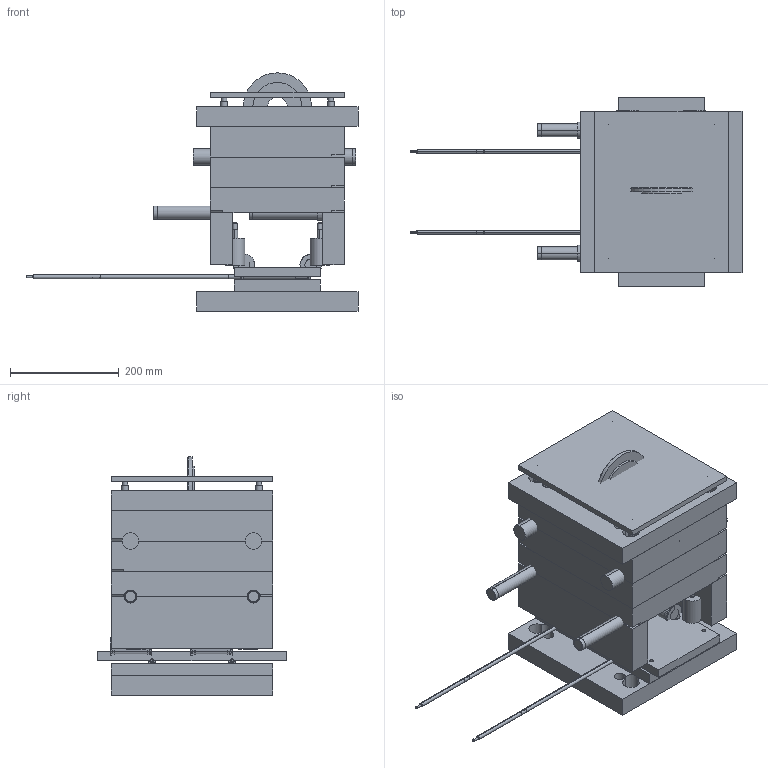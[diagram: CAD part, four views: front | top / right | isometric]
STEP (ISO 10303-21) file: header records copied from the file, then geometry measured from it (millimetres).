
FILE_DESCRIPTION(('Open CASCADE Model'),'2;1');
FILE_NAME('Open CASCADE Shape Model','2026-07-10T05:26:46',('Author'),( 'Open CASCADE'),'Open CASCADE STEP processor 7.8','Open CASCADE 7.8' ,'Unknown');
FILE_SCHEMA(('AUTOMOTIVE_DESIGN { 1 0 10303 214 1 1 1 1 }'));
Length unit declared in the file: millimetre
Products named in the file (70): mold_builder_assembly; Fixed_Half; cavity_plate; clamp_fixed; guide_pin_0; guide_pin_1; guide_pin_2; guide_pin_3; guide_bushing_0; guide_bushing_1; guide_bushing_2; guide_bushing_3; screw_top_0; screw_top_1; screw_top_2; screw_top_3; dowel_pin_0; dowel_pin_1; insulation_plate; sprue_bushing; locating_ring; gate_0; slide_1_K2528; Moving_Half; clamp_moving; support_plate; core_plate; spacer_block; support_pillar_0; support_pillar_1; support_pillar_2; support_pillar_3; screw_bot_0; screw_bot_1; screw_bot_2; screw_bot_3; cooling_channel_0; cooling_channel_1; cooling_channel_2; cooling_channel_3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
Assembly tree (69 placements, depth 3):
  mold_builder_assembly
    Fixed_Half
      cavity_plate
      clamp_fixed
      guide_pin_0
      guide_pin_1
      guide_pin_2
      guide_pin_3
      guide_bushing_0
      guide_bushing_1
      guide_bushing_2
      guide_bushing_3
      screw_top_0
      screw_top_1
      screw_top_2
      screw_top_3
      dowel_pin_0
      dowel_pin_1
      insulation_plate
      sprue_bushing
      locating_ring
      gate_0
      slide_1_K2528
    Moving_Half
      clamp_moving
      support_plate
      core_plate
      spacer_block
      support_pillar_0
      support_pillar_1
      support_pillar_2
      support_pillar_3
      screw_bot_0
      screw_bot_1
      screw_bot_2
      screw_bot_3
      cooling_channel_0
      cooling_channel_1
      cooling_channel_2
      cooling_channel_3
      cooling_channel_4
      cooling_channel_5
      cooling_channel_6
      cooling_channel_7
      cooling_channel_8
      cooling_channel_9
      cooling_uturn_0
      cooling_uturn_1
      cooling_uturn_2
      cooling_uturn_3
      cooling_uturn_4
      cooling_uturn_5
      cooling_uturn_6
      cooling_uturn_7
      cooling_uturn_8
      cooling_inlet
      cooling_outlet
      cooling_oring_inlet
      cooling_oring_outlet
    Ejection
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Bounding box: 609.5 x 346 x 437.5 mm (x, y, z)
Volume: 23855949.5 mm3; surface area: 2374485.9 mm2
Topology: 102 solids, 102 shells, 1221 faces, 2496 edges, 1550 vertices
Faces by surface type: plane 527, cylinder 453, cone 178, bspline 32, torus 19, sphere 12
Full cylindrical faces by diameter (mm): 4 x5, 6 x19, 6.8 x4, 9.728 x2, 10.2 x16, 11.4 x2, 11.98 x8, 12 x18, 12.623 x1, 13.5 x8, 14 x12, 15 x2, 16 x1, 16.6 x4, 18 x8, 18.452 x2, 20 x16, 20.1 x12, 20.502 x1, 28 x2, 90 x1, 125 x1
Entity records: 77028 total; most frequent: CARTESIAN_POINT 24692, DIRECTION 10165, ORIENTED_EDGE 4890, PCURVE 4890, DEFINITIONAL_REPRESENTATION 4890, LINE 4823, VECTOR 4823, AXIS2_PLACEMENT_3D 2457
